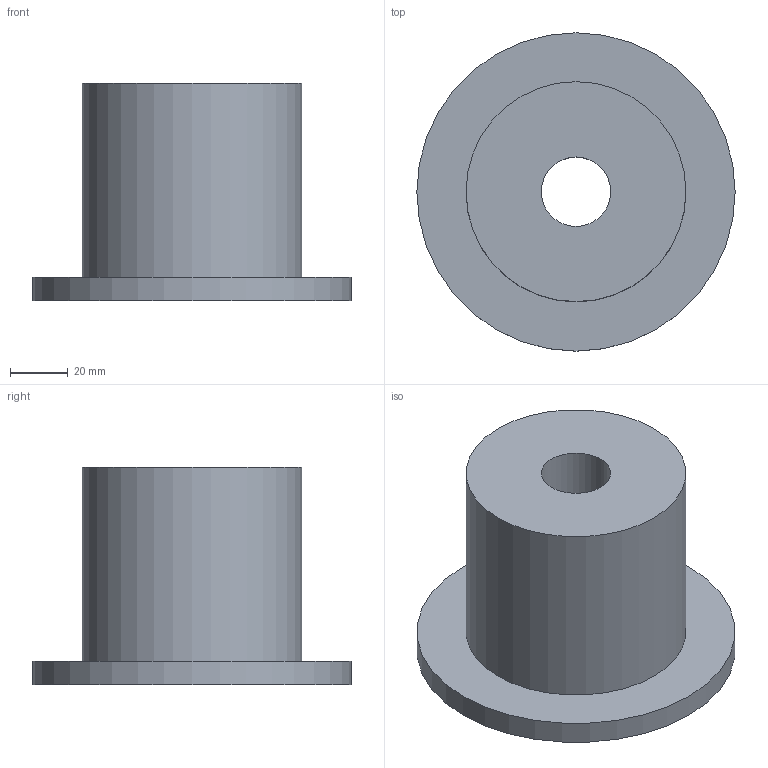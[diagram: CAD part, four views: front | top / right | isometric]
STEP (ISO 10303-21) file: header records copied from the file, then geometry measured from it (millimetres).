
FILE_DESCRIPTION(('Open CASCADE Model'),'2;1');
FILE_NAME('Open CASCADE Shape Model','2026-09-19T16:36:14',('Author'),( 'Open CASCADE'),'Open CASCADE STEP processor 7.8','Open CASCADE 7.8' ,'Unknown');
FILE_SCHEMA(('AUTOMOTIVE_DESIGN { 1 0 10303 214 1 1 1 1 }'));
Length unit declared in the file: millimetre
Products named in the file (1): Open CASCADE STEP translator 7.8 9
Bounding box: 110 x 110 x 75 mm (x, y, z)
Volume: 346040.1 mm3; surface area: 42518.3 mm2
Topology: 1 solids, 1 shells, 6 faces, 9 edges, 6 vertices
Faces by surface type: cylinder 3, plane 3
Full cylindrical faces by diameter (mm): 24 x1, 76 x1, 110 x1
Entity records: 279 total; most frequent: CARTESIAN_POINT 58, DIRECTION 44, ORIENTED_EDGE 18, PCURVE 18, DEFINITIONAL_REPRESENTATION 18, LINE 15, VECTOR 15, AXIS2_PLACEMENT_3D 13
